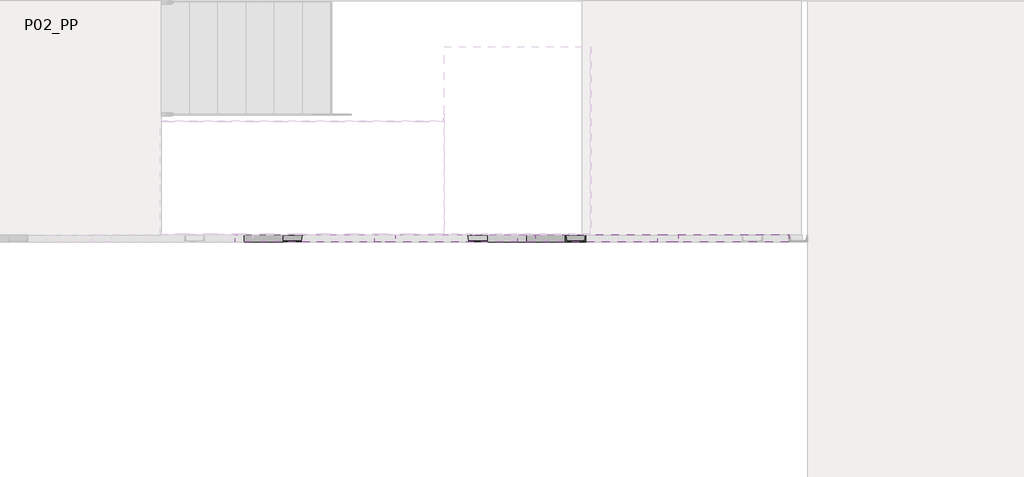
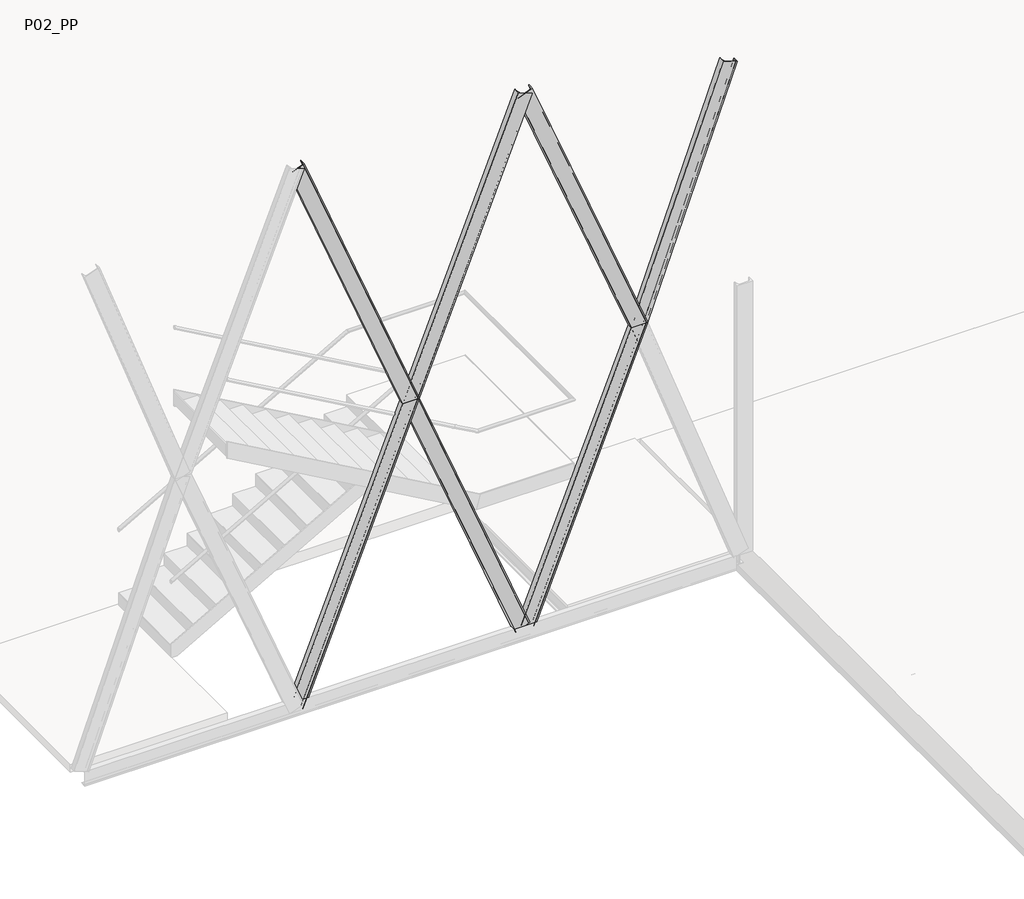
# One storey, part 6 of 7: 7 beams.
"""IFC4 building model written with IfcOpenShell, lengths in millimetres."""

from ifc_helpers import new_model, si_unit, frame, origin, place, context, project, spatial, polyline, circle_curve, ellipse_curve, element, save
from ifc_brep_helpers import plane_surface, cylinder_surface, revolved_surface, advanced_brep

model = new_model("IFC4")

# Units and contexts
model_context = context("Model", 3, world=origin())
ifc_project = project(units=[si_unit("LENGTHUNIT", "METRE", prefix="MILLI")], contexts=[model_context])

# Site, building, storey
site = spatial("IfcSite", under=ifc_project)
building = spatial("IfcBuilding", under=site)
storey = spatial("IfcBuildingStorey", under=building, Name="P02_PP", Elevation=14910.0)

# Beams
placement = place(None, origin())
element("IfcBeam", 1, ObjectType="M_MC Shapes : UPN200x75", at=placement, inside=storey, context=model_context, shape_type="AdvancedBrep", body=[
    advanced_brep(
    [(-19.1744741, 10979.6239684, 22272.8267723), (166.5208641, 10979.6239626, 22347.1049075), (166.5208665, 11054.6239626, 22347.1049075), (165.6159032, 11054.6239626, 22346.7429222), (161.9983204, 11051.32334, 22345.2958892), (152.6287116, 10990.7752085, 22341.5480464), (145.393546, 10984.1739632, 22338.6539803), (1.9528443, 10984.1739677, 22281.2776996), (-5.2823209, 10990.7752134, 22278.3836335), (-14.6519259, 11051.3233455, 22274.6357907), (-18.2695085, 11054.6239683, 22273.1887576), (-19.1744717, 11054.6239684, 22272.8267723), (1681.3628177, 10979.6239153, 18560.0000202), (1465.9562254, 10979.6239221, 18560.0000202), (1681.36282, 11054.6239153, 18560.0000202), (1680.3130626, 11054.6239154, 18560.0000202), (1676.1166666, 11051.3232928, 18560.0000202), (1665.2479207, 10990.7751613, 18560.0000202), (1656.8551287, 10984.1739161, 18560.0000202), (1490.4639147, 10984.1739213, 18560.0000202), (1482.0711231, 10990.775167, 18560.0000202), (1471.2023809, 11051.3232992, 18560.0000202), (1467.0059851, 11054.623922, 18560.0000202), (1465.9562277, 11054.6239221, 18560.0000202)],
    [
        (0, 1),
        (1, 2),
        (2, 3),
        (3, 4, circle_curve(frame((165.6159031, 11050.6739626, 22346.7429222), z_axis=(-0.37139067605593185, 1.1576568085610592e-08, 0.9284766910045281), x_axis=(3.117086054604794e-08, 0.9999999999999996, 0.0)), 3.95)),
        (4, 5),
        (5, 6, circle_curve(frame((145.3935463, 10992.0739632, 22338.6539803), z_axis=(0.37139067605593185, -1.1576568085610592e-08, -0.9284766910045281), x_axis=(3.117086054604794e-08, 0.9999999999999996, 0.0)), 7.9)),
        (6, 7),
        (7, 8, circle_curve(frame((1.9528445, 10992.0739677, 22281.2776996), z_axis=(0.37139067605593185, -1.1576568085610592e-08, -0.9284766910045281), x_axis=(3.117086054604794e-08, 0.9999999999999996, 0.0)), 7.9)),
        (8, 9),
        (9, 10, circle_curve(frame((-18.2695086, 11050.6739683, 22273.1887576), z_axis=(-0.37139067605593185, 1.1576568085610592e-08, 0.9284766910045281), x_axis=(3.117086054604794e-08, 0.9999999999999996, 0.0)), 3.95)),
        (10, 11),
        (11, 0),
        (12, 1),
        (0, 13),
        (13, 12),
        (14, 2),
        (12, 14),
        (15, 3),
        (14, 15),
        (16, 4),
        (15, 16, ellipse_curve(frame((1680.3130625, 11050.6739154, 18560.0000202), z_axis=(1.6592393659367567e-10, -3.915547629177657e-10, 1.0), x_axis=(0.9999999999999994, -3.2149750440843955e-08, -1.6592391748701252e-10)), 4.2542802, 3.95)),
        (16, 17),
        (17, 5),
        (18, 6),
        (17, 18, ellipse_curve(frame((1656.8551289, 10992.0739161, 18560.0000202), z_axis=(-1.6592393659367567e-10, 3.915547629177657e-10, -1.0), x_axis=(-0.9999999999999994, 3.2149750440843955e-08, 1.6592391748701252e-10)), 8.5085604, 7.9)),
        (19, 7),
        (18, 19),
        (20, 8),
        (19, 20, ellipse_curve(frame((1490.4639149, 10992.0739213, 18560.0000202), z_axis=(-1.6592393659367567e-10, 3.915547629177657e-10, -1.0), x_axis=(-0.9999999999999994, 3.2149750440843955e-08, 1.6592391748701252e-10)), 8.5085604, 7.9)),
        (20, 21),
        (21, 9),
        (22, 10),
        (21, 22, ellipse_curve(frame((1467.005985, 11050.673922, 18560.0000202), z_axis=(1.6592393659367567e-10, -3.915547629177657e-10, 1.0), x_axis=(0.9999999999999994, -3.2149750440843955e-08, -1.6592391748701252e-10)), 4.2542802, 3.95)),
        (23, 11),
        (22, 23),
        (23, 13),
    ],
    [
        plane_surface(frame((73.6731954, 10990.5239655, 22309.9658399), z_axis=(-0.3713906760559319, 1.1576568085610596e-08, 0.928476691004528), x_axis=(-0.9284766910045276, 2.8941417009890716e-08, -0.37139067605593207))),
        plane_surface(frame((1465.9425613, 10979.6239221, 18560.0341803), z_axis=(-3.117086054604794e-08, -0.9999999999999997, 0.0), x_axis=(-0.37139067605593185, 1.1576568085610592e-08, 0.9284766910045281))),
        plane_surface(frame((1651.6378995, 10979.6239163, 18634.3123155), z_axis=(0.9284766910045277, -2.8941417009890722e-08, 0.37139067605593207), x_axis=(-0.37139067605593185, 1.1576568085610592e-08, 0.9284766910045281))),
        plane_surface(frame((1651.6379019, 11054.6239163, 18634.3123155), z_axis=(3.117086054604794e-08, 0.9999999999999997, 0.0), x_axis=(-0.37139067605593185, 1.1576568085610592e-08, 0.9284766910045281))),
        cylinder_surface(frame((1650.7329385, 11050.6739163, 18633.9503302), z_axis=(0.37139067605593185, -1.1576568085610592e-08, -0.9284766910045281), x_axis=(3.117086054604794e-08, 0.9999999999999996, 0.0)), 3.95),
        plane_surface(frame((1644.3029353, 11033.1489165, 18631.3783292), z_axis=(-0.9158437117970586, 0.16439933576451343, -0.3663374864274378), x_axis=(-0.37139067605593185, 1.1576568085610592e-08, 0.9284766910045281))),
        revolved_surface(polyline([(145.39354652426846, 10999.97396319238, 22338.65398031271), (1658.0287236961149, 10999.973916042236, 18557.06603386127)]), (1630.5105817, 10992.0739169, 18625.8613883), (-0.37139067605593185, 1.1576568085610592e-08, 0.9284766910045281)),
        plane_surface(frame((1630.5105814, 10984.1739169, 18625.8613883), z_axis=(3.117086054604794e-08, 0.9999999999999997, 0.0), x_axis=(-0.37139067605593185, 1.1576568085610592e-08, 0.9284766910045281))),
        revolved_surface(polyline([(1.9528448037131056, 10999.97396769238, 22281.2776996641), (1491.6375097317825, 10999.973921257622, 18557.066033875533)]), (1487.06988, 10992.0739214, 18568.4851076), (-0.37139067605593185, 1.1576568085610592e-08, 0.9284766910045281)),
        plane_surface(frame((1473.2775289, 11033.1489218, 18562.9681667), z_axis=(0.9158437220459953, 0.16439927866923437, 0.3663374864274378), x_axis=(-0.37139067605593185, 1.1576568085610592e-08, 0.9284766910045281))),
        cylinder_surface(frame((1466.8475268, 11050.673922, 18560.3961656), z_axis=(0.37139067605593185, -1.1576568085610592e-08, -0.9284766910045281), x_axis=(3.117086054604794e-08, 0.9999999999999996, 0.0)), 3.95),
        plane_surface(frame((1466.8475269, 11054.623922, 18560.3961656), z_axis=(3.117086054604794e-08, 0.9999999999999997, 0.0), x_axis=(-0.37139067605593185, 1.1576568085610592e-08, 0.9284766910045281))),
        plane_surface(frame((1465.9425637, 11054.6239221, 18560.0341803), z_axis=(-0.9284766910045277, 2.8941417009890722e-08, -0.37139067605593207), x_axis=(-0.37139067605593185, 1.1576568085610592e-08, 0.9284766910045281))),
        plane_surface(frame((1465.9562257, 10990.5239221, 18560.0000202), z_axis=(-1.6592393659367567e-10, 3.915547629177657e-10, -1.0), x_axis=(1.0, 0.0, -1.6592393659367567e-10))),
    ],
    [
        (0, [[1, 2, 3, 4, 5, 6, 7, 8, 9, 10, 11, 12]]),
        (1, [[13, -1, 14, 15]]),
        (2, [[16, -2, -13, 17]]),
        (3, [[18, -3, -16, 19]]),
        (4, [[20, -4, -18, 21]]),
        (5, [[22, 23, -5, -20]]),
        (6, [[24, -6, -23, 25]]),
        (7, [[26, -7, -24, 27]]),
        (8, [[28, -8, -26, 29]]),
        (9, [[30, 31, -9, -28]]),
        (10, [[32, -10, -31, 33]]),
        (11, [[34, -11, -32, 35]]),
        (12, [[-14, -12, -34, 36]]),
        (13, [[-36, -35, -33, -30, -29, -27, -25, -22, -21, -19, -17, -15]]),
    ],
),
])
element("IfcBeam", 2, ObjectType="M_MC Shapes : UPN200x75", at=placement, inside=storey, context=model_context, shape_type="AdvancedBrep", body=[
    advanced_brep(
    [(3166.4934732, 10979.6239702, 22272.8267746), (3166.4934709, 11054.6239702, 22272.8267746), (3165.5885076, 11054.6239702, 22273.1887599), (3161.970925, 11051.3233473, 22274.635793), (3152.60132, 10990.7752152, 22278.3836358), (3145.3661549, 10984.1739695, 22281.2777019), (3001.9254532, 10984.1739651, 22338.6539827), (2994.6902876, 10990.7752103, 22341.5480488), (2985.3206788, 11051.3233418, 22345.2958916), (2981.703096, 11054.6239644, 22346.7429247), (2980.7981328, 11054.6239644, 22347.10491), (2980.7981351, 10979.6239644, 22347.10491), (1465.9561795, 10979.6239172, 18560.0000261), (1681.3627718, 10979.6239239, 18560.0000261), (1465.9561772, 11054.6239172, 18560.0000261), (1467.0059346, 11054.6239172, 18560.0000261), (1471.2023306, 11051.3232946, 18560.0000261), (1482.0710765, 10990.7751632, 18560.0000261), (1490.4638685, 10984.173918, 18560.0000261), (1656.8550825, 10984.1739231, 18560.0000261), (1665.2478741, 10990.7751689, 18560.0000261), (1676.1166162, 11051.323301, 18560.0000261), (1680.3130121, 11054.6239239, 18560.0000261), (1681.3627695, 11054.6239239, 18560.0000261)],
    [
        (0, 1),
        (1, 2),
        (2, 3, circle_curve(frame((3165.5885077, 11050.6739702, 22273.1887599), z_axis=(0.3713906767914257, 1.1573272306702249e-08, 0.9284766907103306), x_axis=(-3.116199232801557e-08, 0.9999999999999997, 0.0)), 3.95)),
        (3, 4),
        (4, 5, circle_curve(frame((3145.3661546, 10992.0739695, 22281.2777019), z_axis=(-0.3713906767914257, -1.1573272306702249e-08, -0.9284766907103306), x_axis=(-3.116199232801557e-08, 0.9999999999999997, 0.0)), 7.9)),
        (5, 6),
        (6, 7, circle_curve(frame((3001.9254529, 10992.0739651, 22338.6539827), z_axis=(-0.3713906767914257, -1.1573272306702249e-08, -0.9284766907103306), x_axis=(-3.116199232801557e-08, 0.9999999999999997, 0.0)), 7.9)),
        (7, 8),
        (8, 9, circle_curve(frame((2981.7030962, 11050.6739644, 22346.7429247), z_axis=(0.3713906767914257, 1.1573272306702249e-08, 0.9284766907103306), x_axis=(-3.116199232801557e-08, 0.9999999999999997, 0.0)), 3.95)),
        (9, 10),
        (10, 11),
        (11, 0),
        (12, 13),
        (13, 0),
        (11, 12),
        (14, 12),
        (10, 14),
        (15, 14),
        (9, 15),
        (16, 15, ellipse_curve(frame((1467.0059347, 11050.6739172, 18560.0000261), z_axis=(2.569041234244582e-10, 0.0, 1.0), x_axis=(-0.9999999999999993, -3.1161989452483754e-08, 2.569041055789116e-10)), 4.2542802, 3.95)),
        (8, 16),
        (7, 17),
        (17, 16),
        (18, 17, ellipse_curve(frame((1490.4638683, 10992.073918, 18560.0000261), z_axis=(-2.569041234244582e-10, 0.0, -1.0), x_axis=(0.9999999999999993, 3.1161989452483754e-08, -2.569041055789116e-10)), 8.5085604, 7.9)),
        (6, 18),
        (19, 18),
        (5, 19),
        (20, 19, ellipse_curve(frame((1656.8550823, 10992.0739231, 18560.0000261), z_axis=(-2.569041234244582e-10, 0.0, -1.0), x_axis=(0.9999999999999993, 3.1161989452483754e-08, -2.569041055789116e-10)), 8.5085604, 7.9)),
        (4, 20),
        (3, 21),
        (21, 20),
        (22, 21, ellipse_curve(frame((1680.3130122, 11050.6739239, 18560.0000261), z_axis=(2.569041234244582e-10, 0.0, 1.0), x_axis=(-0.9999999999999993, -3.1161989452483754e-08, 2.569041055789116e-10)), 4.2542802, 3.95)),
        (2, 22),
        (23, 22),
        (1, 23),
        (13, 23),
    ],
    [
        plane_surface(frame((3073.6458038, 10990.5239673, 22309.9658423), z_axis=(0.37139067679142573, 1.157327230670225e-08, 0.9284766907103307), x_axis=(0.9284766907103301, 2.893318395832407e-08, -0.37139067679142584))),
        plane_surface(frame((1681.3764349, 10979.6239239, 18560.0341838), z_axis=(3.116199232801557e-08, -0.9999999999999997, 0.0), x_axis=(0.3713906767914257, 1.1573272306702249e-08, 0.9284766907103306))),
        plane_surface(frame((1495.6810967, 10979.6239181, 18634.3123191), z_axis=(-0.9284766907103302, -2.8933183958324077e-08, 0.3713906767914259), x_axis=(0.3713906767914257, 1.1573272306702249e-08, 0.9284766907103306))),
        plane_surface(frame((1495.6810944, 11054.6239181, 18634.3123191), z_axis=(-3.116199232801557e-08, 0.9999999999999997, 0.0), x_axis=(0.3713906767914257, 1.1573272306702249e-08, 0.9284766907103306))),
        cylinder_surface(frame((1496.5860578, 11050.6739181, 18633.9503338), z_axis=(-0.3713906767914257, -1.1573272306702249e-08, -0.9284766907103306), x_axis=(-3.116199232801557e-08, 0.9999999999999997, 0.0)), 3.95),
        plane_surface(frame((1503.0160609, 11033.1489183, 18631.3783328), z_axis=(0.9158437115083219, 0.16439933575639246, -0.3663374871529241), x_axis=(0.3713906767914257, 1.1573272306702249e-08, 0.9284766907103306))),
        revolved_surface(polyline([(3001.9254527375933, 10999.973965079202, 22338.65398268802), (1489.2902735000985, 10999.97391794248, 18557.066039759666)]), (1516.8084146, 10992.0739188, 18625.8613918), (0.3713906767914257, 1.1573272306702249e-08, 0.9284766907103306)),
        plane_surface(frame((1516.8084148, 10984.1739188, 18625.8613918), z_axis=(-3.116199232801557e-08, 0.9999999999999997, 0.0), x_axis=(0.3713906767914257, 1.1573272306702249e-08, 0.9284766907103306))),
        revolved_surface(polyline([(3145.366154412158, 10999.9739694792, 22281.27770192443), (1655.6814875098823, 10999.973923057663, 18557.06603975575)]), (1660.2491163, 10992.0739232, 18568.4851111), (0.3713906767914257, 1.1573272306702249e-08, 0.9284766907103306)),
        plane_surface(frame((1674.0414674, 11033.1489237, 18562.9681701), z_axis=(-0.9158437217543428, 0.1643992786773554, 0.36633748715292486), x_axis=(0.3713906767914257, 1.1573272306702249e-08, 0.9284766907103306))),
        cylinder_surface(frame((1680.4714694, 11050.6739239, 18560.3961691), z_axis=(-0.3713906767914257, -1.1573272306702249e-08, -0.9284766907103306), x_axis=(-3.116199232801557e-08, 0.9999999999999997, 0.0)), 3.95),
        plane_surface(frame((1680.4714693, 11054.6239239, 18560.3961691), z_axis=(-3.116199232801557e-08, 0.9999999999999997, 0.0), x_axis=(0.3713906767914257, 1.1573272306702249e-08, 0.9284766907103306))),
        plane_surface(frame((1681.3764325, 11054.6239239, 18560.0341838), z_axis=(0.9284766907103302, 2.8933183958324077e-08, -0.3713906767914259), x_axis=(0.3713906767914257, 1.1573272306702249e-08, 0.9284766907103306))),
        plane_surface(frame((1681.3627715, 10990.5239239, 18560.0000261), z_axis=(-2.569041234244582e-10, 0.0, -1.0), x_axis=(1.0, 0.0, -2.569041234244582e-10))),
    ],
    [
        (0, [[1, 2, 3, 4, 5, 6, 7, 8, 9, 10, 11, 12]]),
        (1, [[13, 14, -12, 15]]),
        (2, [[16, -15, -11, 17]]),
        (3, [[18, -17, -10, 19]]),
        (4, [[20, -19, -9, 21]]),
        (5, [[-21, -8, 22, 23]]),
        (6, [[24, -22, -7, 25]]),
        (7, [[26, -25, -6, 27]]),
        (8, [[28, -27, -5, 29]]),
        (9, [[-29, -4, 30, 31]]),
        (10, [[32, -30, -3, 33]]),
        (11, [[34, -33, -2, 35]]),
        (12, [[36, -35, -1, -14]]),
        (13, [[-13, -16, -18, -20, -23, -24, -26, -28, -31, -32, -34, -36]]),
    ],
),
])
element("IfcBeam", 3, ObjectType="M_MC Shapes : UPN200x75", at=placement, inside=storey, context=model_context, shape_type="AdvancedBrep", body=[
    advanced_brep(
    [(2980.8255261, 10979.6239688, 22272.8267726), (3166.5208643, 10979.623963, 22347.1049079), (3166.5208666, 11054.623963, 22347.1049079), (3165.6159033, 11054.623963, 22346.7429226), (3161.9983205, 11051.3233404, 22345.2958895), (3152.6287117, 10990.7752089, 22341.5480467), (3145.3935462, 10984.1739636, 22338.6539806), (3001.9528445, 10984.1739681, 22281.2776999), (2994.7176793, 10990.7752138, 22278.3836338), (2985.3480743, 11051.3233459, 22274.635791), (2981.7304917, 11054.6239687, 22273.1887579), (2980.8255284, 11054.6239688, 22272.8267726), (4681.3628189, 10979.6239158, 18560.0000213), (4465.9562266, 10979.6239225, 18560.0000213), (4681.3628212, 11054.6239158, 18560.0000213), (4680.3130638, 11054.6239158, 18560.0000213), (4676.1166678, 11051.3232932, 18560.0000213), (4665.2479219, 10990.7751617, 18560.0000213), (4656.8551299, 10984.1739165, 18560.0000213), (4490.4639159, 10984.1739217, 18560.0000213), (4482.0711243, 10990.7751675, 18560.0000213), (4471.2023821, 11051.3232996, 18560.0000213), (4467.0059863, 11054.6239225, 18560.0000213), (4465.9562289, 11054.6239225, 18560.0000213)],
    [
        (0, 1),
        (1, 2),
        (2, 3),
        (3, 4, circle_curve(frame((3165.6159032, 11050.673963, 22346.7429226), z_axis=(-0.37139067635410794, 1.1573273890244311e-08, 0.9284766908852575), x_axis=(3.1161990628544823e-08, 0.9999999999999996, 0.0)), 3.95)),
        (4, 5),
        (5, 6, circle_curve(frame((3145.3935464, 10992.0739636, 22338.6539806), z_axis=(0.37139067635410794, -1.1573273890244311e-08, -0.9284766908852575), x_axis=(3.1161990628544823e-08, 0.9999999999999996, 0.0)), 7.9)),
        (6, 7),
        (7, 8, circle_curve(frame((3001.9528447, 10992.0739681, 22281.2776999), z_axis=(0.37139067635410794, -1.1573273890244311e-08, -0.9284766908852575), x_axis=(3.1161990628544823e-08, 0.9999999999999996, 0.0)), 7.9)),
        (8, 9),
        (9, 10, circle_curve(frame((2981.7304916, 11050.6739687, 22273.1887579), z_axis=(-0.37139067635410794, 1.1573273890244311e-08, 0.9284766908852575), x_axis=(3.1161990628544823e-08, 0.9999999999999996, 0.0)), 3.95)),
        (10, 11),
        (11, 0),
        (12, 1),
        (0, 13),
        (13, 12),
        (14, 2),
        (12, 14),
        (15, 3),
        (14, 15),
        (16, 4),
        (15, 16, ellipse_curve(frame((4680.3130637, 11050.6739158, 18560.0000213), z_axis=(1.712828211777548e-10, 0.0, 1.0), x_axis=(0.9999999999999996, -3.1161993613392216e-08, -1.7128295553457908e-10)), 4.2542802, 3.95)),
        (16, 17),
        (17, 5),
        (18, 6),
        (17, 18, ellipse_curve(frame((4656.8551301, 10992.0739165, 18560.0000213), z_axis=(-1.712828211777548e-10, 0.0, -1.0), x_axis=(-0.9999999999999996, 3.1161993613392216e-08, 1.7128295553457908e-10)), 8.5085604, 7.9)),
        (19, 7),
        (18, 19),
        (20, 8),
        (19, 20, ellipse_curve(frame((4490.4639161, 10992.0739217, 18560.0000213), z_axis=(-1.712828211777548e-10, 0.0, -1.0), x_axis=(-0.9999999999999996, 3.1161993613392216e-08, 1.7128295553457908e-10)), 8.5085604, 7.9)),
        (20, 21),
        (21, 9),
        (22, 10),
        (21, 22, ellipse_curve(frame((4467.0059862, 11050.6739225, 18560.0000213), z_axis=(1.712828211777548e-10, 0.0, 1.0), x_axis=(0.9999999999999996, -3.1161993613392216e-08, -1.7128295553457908e-10)), 4.2542802, 3.95)),
        (23, 11),
        (22, 23),
        (23, 13),
    ],
    [
        plane_surface(frame((3073.6731955, 10990.5239659, 22309.9658402), z_axis=(-0.371390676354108, 1.1573273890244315e-08, 0.9284766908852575), x_axis=(-0.9284766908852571, 2.8933181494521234e-08, -0.37139067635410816))),
        plane_surface(frame((4465.9425627, 10979.6239225, 18560.0341811), z_axis=(-3.116199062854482e-08, -0.9999999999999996, 0.0), x_axis=(-0.37139067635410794, 1.1573273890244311e-08, 0.9284766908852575))),
        plane_surface(frame((4651.6379009, 10979.6239167, 18634.3123164), z_axis=(0.9284766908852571, -2.8933181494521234e-08, 0.3713906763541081), x_axis=(-0.37139067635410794, 1.1573273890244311e-08, 0.9284766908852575))),
        plane_surface(frame((4651.6379032, 11054.6239167, 18634.3123164), z_axis=(3.116199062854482e-08, 0.9999999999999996, 0.0), x_axis=(-0.37139067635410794, 1.1573273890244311e-08, 0.9284766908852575))),
        cylinder_surface(frame((4650.7329398, 11050.6739167, 18633.9503311), z_axis=(0.37139067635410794, -1.1573273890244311e-08, -0.9284766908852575), x_axis=(3.1161990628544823e-08, 0.9999999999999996, 0.0)), 3.95),
        plane_surface(frame((4644.3029367, 11033.1489169, 18631.37833), z_axis=(-0.9158437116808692, 0.16439933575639, -0.36633748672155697), x_axis=(-0.37139067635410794, 1.1573273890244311e-08, 0.9284766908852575))),
        revolved_surface(polyline([(3145.393546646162, 10999.973963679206, 22338.653980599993), (4658.028724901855, 10999.973916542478, 18557.06603496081)]), (4630.510583, 10992.0739174, 18625.8613891), (-0.37139067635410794, 1.1573273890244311e-08, 0.9284766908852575)),
        plane_surface(frame((4630.5105828, 10984.1739174, 18625.8613891), z_axis=(3.116199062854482e-08, 0.9999999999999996, 0.0), x_axis=(-0.37139067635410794, 1.1573273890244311e-08, 0.9284766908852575))),
        revolved_surface(polyline([(3001.9528449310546, 10999.973968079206, 22281.27769993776), (4491.637510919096, 10999.973921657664, 18557.06603496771)]), (4487.0698813, 10992.0739218, 18568.4851084), (-0.37139067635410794, 1.1573273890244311e-08, 0.9284766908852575)),
        plane_surface(frame((4473.2775302, 11033.1489223, 18562.9681674), z_axis=(0.9158437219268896, 0.16439927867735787, 0.36633748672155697), x_axis=(-0.37139067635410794, 1.1573273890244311e-08, 0.9284766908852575))),
        cylinder_surface(frame((4466.8475282, 11050.6739225, 18560.3961664), z_axis=(0.37139067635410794, -1.1573273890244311e-08, -0.9284766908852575), x_axis=(3.1161990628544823e-08, 0.9999999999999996, 0.0)), 3.95),
        plane_surface(frame((4466.8475283, 11054.6239225, 18560.3961664), z_axis=(3.116199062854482e-08, 0.9999999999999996, 0.0), x_axis=(-0.37139067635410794, 1.1573273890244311e-08, 0.9284766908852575))),
        plane_surface(frame((4465.942565, 11054.6239225, 18560.0341811), z_axis=(-0.9284766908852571, 2.8933181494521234e-08, -0.3713906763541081), x_axis=(-0.37139067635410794, 1.1573273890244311e-08, 0.9284766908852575))),
        plane_surface(frame((4465.9562269, 10990.5239225, 18560.0000213), z_axis=(-1.712828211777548e-10, 0.0, -1.0), x_axis=(1.0, 0.0, -1.712828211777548e-10))),
    ],
    [
        (0, [[1, 2, 3, 4, 5, 6, 7, 8, 9, 10, 11, 12]]),
        (1, [[13, -1, 14, 15]]),
        (2, [[16, -2, -13, 17]]),
        (3, [[18, -3, -16, 19]]),
        (4, [[20, -4, -18, 21]]),
        (5, [[22, 23, -5, -20]]),
        (6, [[24, -6, -23, 25]]),
        (7, [[26, -7, -24, 27]]),
        (8, [[28, -8, -26, 29]]),
        (9, [[30, 31, -9, -28]]),
        (10, [[32, -10, -31, 33]]),
        (11, [[34, -11, -32, 35]]),
        (12, [[-14, -12, -34, 36]]),
        (13, [[-36, -35, -33, -30, -29, -27, -25, -22, -21, -19, -17, -15]]),
    ],
),
])
element("IfcBeam", 4, ObjectType="M_MC Shapes : UPN200x75", at=placement, inside=storey, context=model_context, shape_type="AdvancedBrep", body=[
    advanced_brep(
    [(5858.8064068, 10979.6239637, 21774.4635559), (5858.8064042, 11054.6239637, 21774.4635559), (5857.8913047, 11054.6239637, 21774.7990924), (5854.2332025, 11051.3233408, 21776.1403965), (5844.7586512, 10990.7752087, 21779.6143995), (5837.4424468, 10984.173963, 21782.2970078), (5692.3951033, 10984.173958, 21835.4810338), (5685.0788985, 10990.7752033, 21838.1636421), (5675.604343, 11051.3233347, 21841.637645), (5671.9462406, 11054.6239573, 21842.9789492), (5671.031141, 11054.6239573, 21843.3144857), (5671.0311436, 10979.6239573, 21843.3144857), (4467.1491742, 10979.6239161, 18560.0000238), (4680.1697783, 10979.6239234, 18560.0000238), (4467.1491717, 11054.6239161, 18560.0000238), (4468.1873012, 11054.6239161, 18560.0000238), (4472.3372152, 11051.3232935, 18560.0000238), (4483.0855717, 10990.7751621, 18560.0000238), (4491.3853996, 10984.1739169, 18560.0000238), (4655.9335527, 10984.1739225, 18560.0000238), (4664.2333801, 10990.7751683, 18560.0000238), (4674.9817325, 11051.3233004, 18560.0000238), (4679.1316462, 11054.6239233, 18560.0000238), (4680.1697758, 11054.6239234, 18560.0000238)],
    [
        (0, 1),
        (1, 2),
        (2, 3, circle_curve(frame((5857.8913048, 11050.6739637, 21774.7990924), z_axis=(0.3442546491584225, 1.1791241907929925e-08, 0.9388763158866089), x_axis=(-3.425151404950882e-08, 0.9999999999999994, 0.0)), 3.95)),
        (3, 4),
        (4, 5, circle_curve(frame((5837.4424466, 10992.073963, 21782.2970078), z_axis=(-0.3442546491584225, -1.1791241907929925e-08, -0.9388763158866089), x_axis=(-3.425151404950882e-08, 0.9999999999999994, 0.0)), 7.9)),
        (5, 6),
        (6, 7, circle_curve(frame((5692.395103, 10992.073958, 21835.4810338), z_axis=(-0.3442546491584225, -1.1791241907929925e-08, -0.9388763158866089), x_axis=(-3.425151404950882e-08, 0.9999999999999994, 0.0)), 7.9)),
        (7, 8),
        (8, 9, circle_curve(frame((5671.9462407, 11050.6739573, 21842.9789492), z_axis=(0.3442546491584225, 1.1791241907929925e-08, 0.9388763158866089), x_axis=(-3.425151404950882e-08, 0.9999999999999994, 0.0)), 3.95)),
        (9, 10),
        (10, 11),
        (11, 0),
        (12, 13),
        (13, 0),
        (11, 12),
        (14, 12),
        (10, 14),
        (15, 14),
        (9, 15),
        (16, 15, ellipse_curve(frame((4468.1873014, 11050.6739161, 18560.0000238), z_axis=(7.478685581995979e-11, 0.0, 1.0), x_axis=(-0.9999999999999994, -3.425151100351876e-08, 7.478690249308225e-11)), 4.2071569, 3.95)),
        (8, 16),
        (7, 17),
        (17, 16),
        (18, 17, ellipse_curve(frame((4491.3853993, 10992.0739169, 18560.0000238), z_axis=(-7.478685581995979e-11, 0.0, -1.0), x_axis=(0.9999999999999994, 3.425151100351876e-08, -7.478690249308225e-11)), 8.4143139, 7.9)),
        (6, 18),
        (19, 18),
        (5, 19),
        (20, 19, ellipse_curve(frame((4655.9335524, 10992.0739225, 18560.0000238), z_axis=(-7.478685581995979e-11, 0.0, -1.0), x_axis=(0.9999999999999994, 3.425151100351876e-08, -7.478690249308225e-11)), 8.4143139, 7.9)),
        (4, 20),
        (3, 21),
        (21, 20),
        (22, 21, ellipse_curve(frame((4679.1316463, 11050.6739233, 18560.0000238), z_axis=(7.478685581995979e-11, 0.0, 1.0), x_axis=(-0.9999999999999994, -3.425151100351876e-08, 7.478690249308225e-11)), 4.2071569, 3.95)),
        (2, 22),
        (23, 22),
        (1, 23),
        (13, 23),
    ],
    [
        plane_surface(frame((5764.9187748, 10990.5239605, 21808.8890208), z_axis=(0.3442546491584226, 1.1791241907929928e-08, 0.9388763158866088), x_axis=(0.9388763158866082, 3.2157935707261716e-08, -0.34425464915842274))),
        plane_surface(frame((4680.1817645, 10979.6239234, 18560.0327132), z_axis=(3.4251514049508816e-08, -0.9999999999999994, 0.0), x_axis=(0.3442546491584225, 1.1791241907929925e-08, 0.9388763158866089))),
        plane_surface(frame((4492.4065013, 10979.6239169, 18628.883643), z_axis=(-0.9388763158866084, -3.215793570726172e-08, 0.34425464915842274), x_axis=(0.3442546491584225, 1.1791241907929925e-08, 0.9388763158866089))),
        plane_surface(frame((4492.4064987, 11054.6239169, 18628.883643), z_axis=(-3.4251514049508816e-08, 0.9999999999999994, 0.0), x_axis=(0.3442546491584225, 1.1791241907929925e-08, 0.9388763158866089))),
        cylinder_surface(frame((4493.3215984, 11050.673917, 18628.5481065), z_axis=(-0.3442546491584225, -1.1791241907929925e-08, -0.9388763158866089), x_axis=(-3.425151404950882e-08, 0.9999999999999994, 0.0)), 3.95),
        plane_surface(frame((4499.8236223, 11033.1489172, 18626.1640313), z_axis=(0.9261018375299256, 0.1643993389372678, -0.33957067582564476), x_axis=(0.3442546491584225, 1.1791241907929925e-08, 0.9388763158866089))),
        revolved_surface(polyline([(5692.395102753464, 10999.973958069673, 21835.481033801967), (4490.388208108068, 10999.973916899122, 18557.28041204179)]), (4513.7704607, 10992.0739177, 18621.0501911), (0.3442546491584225, 1.1791241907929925e-08, 0.9388763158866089)),
        plane_surface(frame((4513.7704609, 10984.1739177, 18621.0501911), z_axis=(-3.4251514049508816e-08, 0.9999999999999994, 0.0), x_axis=(0.3442546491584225, 1.1791241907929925e-08, 0.9388763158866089))),
        revolved_surface(polyline([(5837.442446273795, 10999.973962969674, 21782.297007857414), (4654.936361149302, 10999.973922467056, 18557.280412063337)]), (4658.8178042, 10992.0739226, 18567.8661651), (0.3442546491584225, 1.1791241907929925e-08, 0.9388763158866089)),
        plane_surface(frame((4672.7646397, 11033.1489231, 18562.7523249), z_axis=(-0.9261018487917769, 0.16439927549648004, 0.3395706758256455), x_axis=(0.3442546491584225, 1.1791241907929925e-08, 0.9388763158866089))),
        cylinder_surface(frame((4679.2666625, 11050.6739233, 18560.3682497), z_axis=(-0.3442546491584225, -1.1791241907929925e-08, -0.9388763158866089), x_axis=(-3.425151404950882e-08, 0.9999999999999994, 0.0)), 3.95),
        plane_surface(frame((4679.2666624, 11054.6239233, 18560.3682497), z_axis=(-3.4251514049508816e-08, 0.9999999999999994, 0.0), x_axis=(0.3442546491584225, 1.1791241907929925e-08, 0.9388763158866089))),
        plane_surface(frame((4680.1817619, 11054.6239234, 18560.0327132), z_axis=(0.9388763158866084, 3.215793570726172e-08, -0.34425464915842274), x_axis=(0.3442546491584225, 1.1791241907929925e-08, 0.9388763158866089))),
        plane_surface(frame((4680.169778, 10990.5239234, 18560.0000238), z_axis=(-7.478685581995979e-11, 0.0, -1.0), x_axis=(1.0, 0.0, -7.478685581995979e-11))),
    ],
    [
        (0, [[1, 2, 3, 4, 5, 6, 7, 8, 9, 10, 11, 12]]),
        (1, [[13, 14, -12, 15]]),
        (2, [[16, -15, -11, 17]]),
        (3, [[18, -17, -10, 19]]),
        (4, [[20, -19, -9, 21]]),
        (5, [[-21, -8, 22, 23]]),
        (6, [[24, -22, -7, 25]]),
        (7, [[26, -25, -6, 27]]),
        (8, [[28, -27, -5, 29]]),
        (9, [[-29, -4, 30, 31]]),
        (10, [[32, -30, -3, 33]]),
        (11, [[34, -33, -2, 35]]),
        (12, [[36, -35, -1, -14]]),
        (13, [[-13, -16, -18, -20, -23, -24, -26, -28, -31, -32, -34, -36]]),
    ],
),
])
element("IfcBeam", 5, ObjectType="M_MC Shapes : UPN200x75", at=placement, inside=storey, context=model_context, shape_type="AdvancedBrep", body=[
    advanced_brep(
    [(-19.1744835, 10979.623971, 14847.1732482), (-19.1744811, 11054.623971, 14847.1732482), (-18.2695178, 11054.623971, 14846.8112629), (-14.6519352, 11051.3233481, 14845.3642298), (-5.2823303, 10990.775216, 14841.6163871), (1.9528348, 10984.1739703, 14838.7223209), (145.3935366, 10984.1739656, 14781.3460402), (152.6287021, 10990.7752108, 14778.4519741), (161.9983111, 11051.3233423, 14774.7041313), (165.6158938, 11054.6239649, 14773.2570982), (166.5208571, 11054.6239649, 14772.8951129), (166.5208546, 10979.6239649, 14772.8951129), (1681.3628176, 10979.6239147, 18560.0000202), (1465.9562253, 10979.6239218, 18560.0000202), (1681.3628201, 11054.6239147, 18560.0000202), (1680.3130627, 11054.6239147, 18560.0000202), (1676.1166667, 11051.3232921, 18560.0000202), (1665.2479206, 10990.7751607, 18560.0000202), (1656.8551286, 10984.1739155, 18560.0000202), (1490.4639146, 10984.173921, 18560.0000202), (1482.071123, 10990.7751668, 18560.0000202), (1471.202381, 11051.3232989, 18560.0000202), (1467.0059852, 11054.6239218, 18560.0000202), (1465.9562278, 11054.6239218, 18560.0000202)],
    [
        (0, 1),
        (1, 2),
        (2, 3, circle_curve(frame((-18.2695179, 11050.673971, 14846.8112629), z_axis=(-0.37139067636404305, 1.2303667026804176e-08, -0.9284766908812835), x_axis=(3.3128637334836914e-08, 0.9999999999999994, 0.0)), 3.95)),
        (3, 4),
        (4, 5, circle_curve(frame((1.9528351, 10992.0739703, 14838.7223209), z_axis=(0.37139067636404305, -1.2303667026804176e-08, 0.9284766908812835), x_axis=(3.3128637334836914e-08, 0.9999999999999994, 0.0)), 7.9)),
        (5, 6),
        (6, 7, circle_curve(frame((145.3935368, 10992.0739656, 14781.3460402), z_axis=(0.37139067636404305, -1.2303667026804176e-08, 0.9284766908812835), x_axis=(3.3128637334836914e-08, 0.9999999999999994, 0.0)), 7.9)),
        (7, 8),
        (8, 9, circle_curve(frame((165.6158937, 11050.6739649, 14773.2570982), z_axis=(-0.37139067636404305, 1.2303667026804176e-08, -0.9284766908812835), x_axis=(3.3128637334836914e-08, 0.9999999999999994, 0.0)), 3.95)),
        (9, 10),
        (10, 11),
        (11, 0),
        (12, 13),
        (13, 0),
        (11, 12),
        (14, 12),
        (10, 14),
        (15, 14),
        (9, 15),
        (16, 15, ellipse_curve(frame((1680.3130625, 11050.6739147, 18560.0000202), z_axis=(-1.6592393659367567e-10, 3.915547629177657e-10, -1.0), x_axis=(0.9999999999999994, -3.2149750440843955e-08, -1.6592391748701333e-10)), 4.2542802, 3.95)),
        (8, 16),
        (7, 17),
        (17, 16),
        (18, 17, ellipse_curve(frame((1656.8551288, 10992.0739155, 18560.0000202), z_axis=(1.6592393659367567e-10, -3.915547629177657e-10, 1.0), x_axis=(-0.9999999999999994, 3.2149750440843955e-08, 1.6592391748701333e-10)), 8.5085604, 7.9)),
        (6, 18),
        (19, 18),
        (5, 19),
        (20, 19, ellipse_curve(frame((1490.4639149, 10992.073921, 18560.0000202), z_axis=(1.6592393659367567e-10, -3.915547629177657e-10, 1.0), x_axis=(-0.9999999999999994, 3.2149750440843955e-08, 1.6592391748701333e-10)), 8.5085604, 7.9)),
        (4, 20),
        (3, 21),
        (21, 20),
        (22, 21, ellipse_curve(frame((1467.0059851, 11050.6739218, 18560.0000202), z_axis=(-1.6592393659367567e-10, 3.915547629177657e-10, -1.0), x_axis=(0.9999999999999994, -3.2149750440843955e-08, -1.6592391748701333e-10)), 4.2542802, 3.95)),
        (2, 22),
        (23, 22),
        (1, 23),
        (13, 23),
    ],
    [
        plane_surface(frame((73.6731859, 10990.5239679, 14810.0341806), z_axis=(-0.371390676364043, 1.2303667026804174e-08, -0.9284766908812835), x_axis=(-0.928476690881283, 3.0759167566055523e-08, 0.3713906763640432))),
        plane_surface(frame((1465.9425531, 10979.6239218, 18559.9658397), z_axis=(-3.3128637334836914e-08, -0.9999999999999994, 0.0), x_axis=(-0.37139067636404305, 1.2303667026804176e-08, -0.9284766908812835))),
        plane_surface(frame((1651.6378913, 10979.6239157, 18485.6877044), z_axis=(0.9284766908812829, -3.0759167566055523e-08, -0.3713906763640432), x_axis=(-0.37139067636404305, 1.2303667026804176e-08, -0.9284766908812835))),
        plane_surface(frame((1651.6378938, 11054.6239157, 18485.6877044), z_axis=(3.3128637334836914e-08, 0.9999999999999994, 0.0), x_axis=(-0.37139067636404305, 1.2303667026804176e-08, -0.9284766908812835))),
        cylinder_surface(frame((1650.7329304, 11050.6739157, 18486.0496897), z_axis=(0.37139067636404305, -1.2303667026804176e-08, 0.9284766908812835), x_axis=(3.3128637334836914e-08, 0.9999999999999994, 0.0)), 3.95),
        plane_surface(frame((1644.3029272, 11033.1489159, 18488.6216908), z_axis=(-0.9158437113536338, 0.16439933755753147, 0.3663374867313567), x_axis=(-0.37139067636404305, 1.2303667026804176e-08, -0.9284766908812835))),
        revolved_surface(polyline([(145.39353710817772, 10999.973965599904, 14781.346040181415), (1658.0287236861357, 10999.973915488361, 18562.934006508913)]), (1630.5105735, 10992.0739164, 18494.1386317), (-0.37139067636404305, 1.2303667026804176e-08, -0.9284766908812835)),
        plane_surface(frame((1630.5105732, 10984.1739164, 18494.1386317), z_axis=(3.3128637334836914e-08, 0.9999999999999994, 0.0), x_axis=(-0.37139067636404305, 1.2303667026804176e-08, -0.9284766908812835))),
        revolved_surface(polyline([(1.9528354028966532, 10999.973970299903, 14838.722320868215), (1491.6375097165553, 10999.97392094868, 18562.934006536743)]), (1487.0698718, 10992.0739211, 18551.5149124), (-0.37139067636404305, 1.2303667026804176e-08, -0.9284766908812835)),
        plane_surface(frame((1473.2775207, 11033.1489216, 18557.0318534), z_axis=(0.9158437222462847, 0.16439927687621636, -0.3663374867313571), x_axis=(-0.37139067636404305, 1.2303667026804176e-08, -0.9284766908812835))),
        cylinder_surface(frame((1466.8475187, 11050.6739218, 18559.6038544), z_axis=(0.37139067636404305, -1.2303667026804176e-08, 0.9284766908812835), x_axis=(3.3128637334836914e-08, 0.9999999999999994, 0.0)), 3.95),
        plane_surface(frame((1466.8475189, 11054.6239218, 18559.6038544), z_axis=(3.3128637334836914e-08, 0.9999999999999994, 0.0), x_axis=(-0.37139067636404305, 1.2303667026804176e-08, -0.9284766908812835))),
        plane_surface(frame((1465.9425556, 11054.6239218, 18559.9658397), z_axis=(-0.9284766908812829, 3.0759167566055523e-08, 0.3713906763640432), x_axis=(-0.37139067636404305, 1.2303667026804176e-08, -0.9284766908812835))),
        plane_surface(frame((1681.3628179, 10990.5239149, 18560.0000202), z_axis=(1.6592393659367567e-10, -3.915547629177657e-10, 1.0), x_axis=(-1.0, 0.0, 1.6592393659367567e-10))),
    ],
    [
        (0, [[1, 2, 3, 4, 5, 6, 7, 8, 9, 10, 11, 12]]),
        (1, [[13, 14, -12, 15]]),
        (2, [[16, -15, -11, 17]]),
        (3, [[18, -17, -10, 19]]),
        (4, [[20, -19, -9, 21]]),
        (5, [[-21, -8, 22, 23]]),
        (6, [[24, -22, -7, 25]]),
        (7, [[26, -25, -6, 27]]),
        (8, [[28, -27, -5, 29]]),
        (9, [[-29, -4, 30, 31]]),
        (10, [[32, -30, -3, 33]]),
        (11, [[34, -33, -2, 35]]),
        (12, [[36, -35, -1, -14]]),
        (13, [[-13, -16, -18, -20, -23, -24, -26, -28, -31, -32, -34, -36]]),
    ],
),
])
element("IfcBeam", 6, ObjectType="M_MC Shapes : UPN200x75", at=placement, inside=storey, context=model_context, shape_type="AdvancedBrep", body=[
    advanced_brep(
    [(3130.419638, 10979.6239691, 14937.35786), (2944.7242999, 10979.6239633, 14863.0797247), (2944.7242975, 11054.6239633, 14863.0797247), (2945.6292608, 11054.6239633, 14863.44171), (2949.2468436, 11051.3233407, 14864.8887431), (2958.6164524, 10990.7752092, 14868.6365859), (2965.851618, 10984.1739639, 14871.530652), (3109.2923197, 10984.1739684, 14928.9069327), (3116.5274848, 10990.7752141, 14931.8009988), (3125.8970899, 11051.3233462, 14935.5488416), (3129.5146724, 11054.623969, 14936.9958747), (3130.4196357, 11054.6239691, 14937.35786), (1465.9561795, 10979.6239172, 18560.0000261), (1681.3627718, 10979.6239239, 18560.0000261), (1465.9561772, 11054.6239172, 18560.0000261), (1467.0059346, 11054.6239172, 18560.0000261), (1471.2023306, 11051.3232946, 18560.0000261), (1482.0710765, 10990.7751632, 18560.0000261), (1490.4638685, 10984.173918, 18560.0000261), (1656.8550825, 10984.1739231, 18560.0000261), (1665.2478741, 10990.7751689, 18560.0000261), (1676.1166162, 11051.323301, 18560.0000261), (1680.3130121, 11054.6239239, 18560.0000261), (1681.3627695, 11054.6239239, 18560.0000261)],
    [
        (0, 1),
        (1, 2),
        (2, 3),
        (3, 4, circle_curve(frame((2945.6292609, 11050.6739633, 14863.44171), z_axis=(0.37139067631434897, 1.1573272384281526e-08, -0.9284766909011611), x_axis=(-3.116198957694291e-08, 0.9999999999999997, 0.0)), 3.95)),
        (4, 5),
        (5, 6, circle_curve(frame((2965.8516177, 10992.0739639, 14871.530652), z_axis=(-0.37139067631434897, -1.1573272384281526e-08, 0.9284766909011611), x_axis=(-3.116198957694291e-08, 0.9999999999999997, 0.0)), 7.9)),
        (6, 7),
        (7, 8, circle_curve(frame((3109.2923194, 10992.0739684, 14928.9069327), z_axis=(-0.37139067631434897, -1.1573272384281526e-08, 0.9284766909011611), x_axis=(-3.116198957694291e-08, 0.9999999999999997, 0.0)), 7.9)),
        (8, 9),
        (9, 10, circle_curve(frame((3129.5146726, 11050.673969, 14936.9958747), z_axis=(0.37139067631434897, 1.1573272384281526e-08, -0.9284766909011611), x_axis=(-3.116198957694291e-08, 0.9999999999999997, 0.0)), 3.95)),
        (10, 11),
        (11, 0),
        (12, 1),
        (0, 13),
        (13, 12),
        (14, 2),
        (12, 14),
        (15, 3),
        (14, 15),
        (16, 4),
        (15, 16, ellipse_curve(frame((1467.0059347, 11050.6739172, 18560.0000261), z_axis=(-2.569041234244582e-10, 0.0, -1.0), x_axis=(-0.9999999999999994, -3.116198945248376e-08, 2.569041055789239e-10)), 4.2542802, 3.95)),
        (16, 17),
        (17, 5),
        (18, 6),
        (17, 18, ellipse_curve(frame((1490.4638683, 10992.073918, 18560.0000261), z_axis=(2.569041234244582e-10, 0.0, 1.0), x_axis=(0.9999999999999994, 3.116198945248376e-08, -2.569041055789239e-10)), 8.5085604, 7.9)),
        (19, 7),
        (18, 19),
        (20, 8),
        (19, 20, ellipse_curve(frame((1656.8550823, 10992.0739231, 18560.0000261), z_axis=(2.569041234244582e-10, 0.0, 1.0), x_axis=(0.9999999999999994, 3.116198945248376e-08, -2.569041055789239e-10)), 8.5085604, 7.9)),
        (20, 21),
        (21, 9),
        (22, 10),
        (21, 22, ellipse_curve(frame((1680.3130122, 11050.6739239, 18560.0000261), z_axis=(-2.569041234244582e-10, 0.0, -1.0), x_axis=(-0.9999999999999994, -3.116198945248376e-08, 2.569041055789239e-10)), 4.2542802, 3.95)),
        (23, 11),
        (22, 23),
        (23, 13),
    ],
    [
        plane_surface(frame((3037.5719686, 10990.5239662, 14900.2187923), z_axis=(0.371390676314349, 1.1573272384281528e-08, -0.9284766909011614), x_axis=(0.9284766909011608, 2.893318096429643e-08, 0.37139067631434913))),
        plane_surface(frame((1681.3646363, 10979.6239239, 18559.9953649), z_axis=(3.116198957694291e-08, -0.9999999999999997, 0.0), x_axis=(0.37139067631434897, 1.1573272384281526e-08, -0.9284766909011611))),
        plane_surface(frame((1495.6692981, 10979.6239181, 18485.7172296), z_axis=(-0.9284766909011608, -2.893318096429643e-08, -0.3713906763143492), x_axis=(0.37139067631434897, 1.1573272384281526e-08, -0.9284766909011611))),
        plane_surface(frame((1495.6692958, 11054.6239181, 18485.7172296), z_axis=(-3.116198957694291e-08, 0.9999999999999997, 0.0), x_axis=(0.37139067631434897, 1.1573272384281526e-08, -0.9284766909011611))),
        cylinder_surface(frame((1496.5742592, 11050.6739181, 18486.0792149), z_axis=(-0.37139067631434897, -1.1573272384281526e-08, 0.9284766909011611), x_axis=(-3.116198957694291e-08, 0.9999999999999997, 0.0)), 3.95),
        plane_surface(frame((1503.0042623, 11033.1489183, 18488.6512159), z_axis=(0.9158437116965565, 0.16439933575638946, 0.36633748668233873), x_axis=(0.37139067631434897, 1.1573272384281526e-08, -0.9284766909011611))),
        revolved_surface(polyline([(2965.851617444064, 10999.973963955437, 14871.530651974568), (1489.2902734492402, 10999.973917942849, 18562.934012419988)]), (1516.7966159, 10992.0739188, 18494.1681569), (0.37139067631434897, 1.1573272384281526e-08, -0.9284766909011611)),
        plane_surface(frame((1516.7966162, 10984.1739188, 18494.1681569), z_axis=(-3.116198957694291e-08, 0.9999999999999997, 0.0), x_axis=(0.37139067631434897, 1.1573272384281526e-08, -0.9284766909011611))),
        revolved_surface(polyline([(3109.292319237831, 10999.973968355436, 14928.906932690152), (1655.6814875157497, 10999.97392305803, 18562.934012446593)]), (1660.2373177, 10992.0739232, 18551.5444376), (0.37139067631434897, 1.1573272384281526e-08, -0.9284766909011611)),
        plane_surface(frame((1674.0296687, 11033.1489237, 18557.0613785), z_axis=(-0.9158437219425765, 0.16439927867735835, -0.3663374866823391), x_axis=(0.37139067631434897, 1.1573272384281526e-08, -0.9284766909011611))),
        cylinder_surface(frame((1680.4596708, 11050.6739239, 18559.6333796), z_axis=(-0.37139067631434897, -1.1573272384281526e-08, 0.9284766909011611), x_axis=(-3.116198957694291e-08, 0.9999999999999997, 0.0)), 3.95),
        plane_surface(frame((1680.4596707, 11054.6239239, 18559.6333796), z_axis=(-3.116198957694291e-08, 0.9999999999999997, 0.0), x_axis=(0.37139067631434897, 1.1573272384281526e-08, -0.9284766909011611))),
        plane_surface(frame((1681.3646339, 11054.6239239, 18559.9953649), z_axis=(0.9284766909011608, 2.893318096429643e-08, 0.3713906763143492), x_axis=(0.37139067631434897, 1.1573272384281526e-08, -0.9284766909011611))),
        plane_surface(frame((1465.9561791, 10990.5239172, 18560.0000261), z_axis=(2.569041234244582e-10, 0.0, 1.0), x_axis=(-1.0, 0.0, 2.569041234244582e-10))),
    ],
    [
        (0, [[1, 2, 3, 4, 5, 6, 7, 8, 9, 10, 11, 12]]),
        (1, [[13, -1, 14, 15]]),
        (2, [[16, -2, -13, 17]]),
        (3, [[18, -3, -16, 19]]),
        (4, [[20, -4, -18, 21]]),
        (5, [[22, 23, -5, -20]]),
        (6, [[24, -6, -23, 25]]),
        (7, [[26, -7, -24, 27]]),
        (8, [[28, -8, -26, 29]]),
        (9, [[30, 31, -9, -28]]),
        (10, [[32, -10, -31, 33]]),
        (11, [[34, -11, -32, 35]]),
        (12, [[-14, -12, -34, 36]]),
        (13, [[-36, -35, -33, -30, -29, -27, -25, -22, -21, -19, -17, -15]]),
    ],
),
])
element("IfcBeam", 7, ObjectType="M_MC Shapes : UPN200x75", at=placement, inside=storey, context=model_context, shape_type="AdvancedBrep", body=[
    advanced_brep(
    [(3017.0359859, 10979.6239676, 14937.6994233), (3017.0359883, 11054.6239676, 14937.6994233), (3017.9409515, 11054.6239676, 14937.337438), (3021.5585341, 11051.3233448, 14935.8904049), (3030.9281391, 10990.7752127, 14932.1425621), (3038.1633043, 10984.173967, 14929.248496), (3181.604006, 10984.1739625, 14871.8722153), (3188.8391716, 10990.7752078, 14868.9781491), (3198.2087804, 11051.3233393, 14865.2303063), (3201.8263631, 11054.6239619, 14863.7832733), (3202.7313264, 11054.6239619, 14863.421288), (3202.7313241, 10979.6239619, 14863.421288), (4681.3628189, 10979.6239158, 18560.0000213), (4465.9562266, 10979.6239225, 18560.0000213), (4681.3628212, 11054.6239158, 18560.0000213), (4680.3130638, 11054.6239158, 18560.0000213), (4676.1166678, 11051.3232932, 18560.0000213), (4665.2479219, 10990.7751617, 18560.0000213), (4656.8551299, 10984.1739165, 18560.0000213), (4490.4639159, 10984.1739217, 18560.0000213), (4482.0711243, 10990.7751675, 18560.0000213), (4471.2023821, 11051.3232996, 18560.0000213), (4467.0059863, 11054.6239225, 18560.0000213), (4465.9562289, 11054.6239225, 18560.0000213)],
    [
        (0, 1),
        (1, 2),
        (2, 3, circle_curve(frame((3017.9409514, 11050.6739676, 14937.337438), z_axis=(-0.37139067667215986, 1.1573273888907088e-08, -0.9284766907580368), x_axis=(3.116199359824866e-08, 0.9999999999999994, 0.0)), 3.95)),
        (3, 4),
        (4, 5, circle_curve(frame((3038.1633045, 10992.073967, 14929.248496), z_axis=(0.37139067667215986, -1.1573273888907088e-08, 0.9284766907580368), x_axis=(3.116199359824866e-08, 0.9999999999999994, 0.0)), 7.9)),
        (5, 6),
        (6, 7, circle_curve(frame((3181.6040062, 10992.0739625, 14871.8722153), z_axis=(0.37139067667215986, -1.1573273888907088e-08, 0.9284766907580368), x_axis=(3.116199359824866e-08, 0.9999999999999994, 0.0)), 7.9)),
        (7, 8),
        (8, 9, circle_curve(frame((3201.826363, 11050.6739619, 14863.7832733), z_axis=(-0.37139067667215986, 1.1573273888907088e-08, -0.9284766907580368), x_axis=(3.116199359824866e-08, 0.9999999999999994, 0.0)), 3.95)),
        (9, 10),
        (10, 11),
        (11, 0),
        (12, 13),
        (13, 0),
        (11, 12),
        (14, 12),
        (10, 14),
        (15, 14),
        (9, 15),
        (16, 15, ellipse_curve(frame((4680.3130637, 11050.6739158, 18560.0000213), z_axis=(-1.712828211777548e-10, 0.0, -1.0), x_axis=(0.9999999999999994, -3.1161993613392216e-08, -1.7128295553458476e-10)), 4.2542802, 3.95)),
        (8, 16),
        (7, 17),
        (17, 16),
        (18, 17, ellipse_curve(frame((4656.8551301, 10992.0739165, 18560.0000213), z_axis=(1.712828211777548e-10, 0.0, 1.0), x_axis=(-0.9999999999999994, 3.1161993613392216e-08, 1.7128295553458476e-10)), 8.5085604, 7.9)),
        (6, 18),
        (19, 18),
        (5, 19),
        (20, 19, ellipse_curve(frame((4490.4639161, 10992.0739217, 18560.0000213), z_axis=(1.712828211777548e-10, 0.0, 1.0), x_axis=(-0.9999999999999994, 3.1161993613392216e-08, 1.7128295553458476e-10)), 8.5085604, 7.9)),
        (4, 20),
        (3, 21),
        (21, 20),
        (22, 21, ellipse_curve(frame((4467.0059862, 11050.6739225, 18560.0000213), z_axis=(-1.712828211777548e-10, 0.0, -1.0), x_axis=(0.9999999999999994, -3.1161993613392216e-08, -1.7128295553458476e-10)), 4.2542802, 3.95)),
        (2, 22),
        (23, 22),
        (1, 23),
        (13, 23),
    ],
    [
        plane_surface(frame((3109.8836553, 10990.5239647, 14900.5603556), z_axis=(-0.37139067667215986, 1.1573273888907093e-08, -0.9284766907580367), x_axis=(-0.9284766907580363, 2.893318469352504e-08, 0.37139067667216))),
        plane_surface(frame((4465.9424328, 10979.6239225, 18559.9655369), z_axis=(-3.116199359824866e-08, -0.9999999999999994, 0.0), x_axis=(-0.37139067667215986, 1.1573273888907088e-08, -0.9284766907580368))),
        plane_surface(frame((4651.637771, 10979.6239167, 18485.6874016), z_axis=(0.9284766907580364, -2.8933184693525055e-08, -0.37139067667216), x_axis=(-0.37139067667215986, 1.1573273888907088e-08, -0.9284766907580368))),
        plane_surface(frame((4651.6377733, 11054.6239167, 18485.6874016), z_axis=(3.116199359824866e-08, 0.9999999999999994, 0.0), x_axis=(-0.37139067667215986, 1.1573273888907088e-08, -0.9284766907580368))),
        cylinder_surface(frame((4650.7328099, 11050.6739167, 18486.0493869), z_axis=(0.37139067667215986, -1.1573273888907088e-08, 0.9284766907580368), x_axis=(3.116199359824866e-08, 0.9999999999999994, 0.0)), 3.95),
        plane_surface(frame((4644.3028068, 11033.1489169, 18488.621388), z_axis=(-0.9158437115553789, 0.16439933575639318, 0.3663374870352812), x_axis=(-0.37139067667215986, 1.1573273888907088e-08, -0.9284766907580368))),
        revolved_surface(polyline([(3181.604006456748, 10999.973962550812, 14871.872215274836), (4658.028724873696, 10999.973916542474, 18562.93400765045)]), (4630.5104531, 10992.0739174, 18494.1383289), (-0.37139067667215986, 1.1573273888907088e-08, -0.9284766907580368)),
        plane_surface(frame((4630.5104529, 10984.1739174, 18494.1383289), z_axis=(3.116199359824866e-08, 0.9999999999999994, 0.0), x_axis=(-0.37139067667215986, 1.1573273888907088e-08, -0.9284766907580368))),
        revolved_surface(polyline([(3038.163304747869, 10999.973966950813, 14929.248495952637), (4491.637510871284, 10999.973921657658, 18562.934007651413)]), (4487.0697514, 10992.0739218, 18551.5146096), (-0.37139067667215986, 1.1573273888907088e-08, -0.9284766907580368)),
        plane_surface(frame((4473.2774004, 11033.1489223, 18557.0315506), z_axis=(0.9158437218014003, 0.16439927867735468, -0.36633748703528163), x_axis=(-0.37139067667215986, 1.1573273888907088e-08, -0.9284766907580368))),
        cylinder_surface(frame((4466.8473983, 11050.6739225, 18559.6035516), z_axis=(0.37139067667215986, -1.1573273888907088e-08, 0.9284766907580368), x_axis=(3.116199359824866e-08, 0.9999999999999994, 0.0)), 3.95),
        plane_surface(frame((4466.8473984, 11054.6239225, 18559.6035516), z_axis=(3.116199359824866e-08, 0.9999999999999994, 0.0), x_axis=(-0.37139067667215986, 1.1573273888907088e-08, -0.9284766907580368))),
        plane_surface(frame((4465.9424352, 11054.6239225, 18559.9655369), z_axis=(-0.9284766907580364, 2.8933184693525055e-08, 0.37139067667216), x_axis=(-0.37139067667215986, 1.1573273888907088e-08, -0.9284766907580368))),
        plane_surface(frame((4681.3628192, 10990.5239158, 18560.0000213), z_axis=(1.712828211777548e-10, 0.0, 1.0), x_axis=(-1.0, 0.0, 1.712828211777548e-10))),
    ],
    [
        (0, [[1, 2, 3, 4, 5, 6, 7, 8, 9, 10, 11, 12]]),
        (1, [[13, 14, -12, 15]]),
        (2, [[16, -15, -11, 17]]),
        (3, [[18, -17, -10, 19]]),
        (4, [[20, -19, -9, 21]]),
        (5, [[-21, -8, 22, 23]]),
        (6, [[24, -22, -7, 25]]),
        (7, [[26, -25, -6, 27]]),
        (8, [[28, -27, -5, 29]]),
        (9, [[-29, -4, 30, 31]]),
        (10, [[32, -30, -3, 33]]),
        (11, [[34, -33, -2, 35]]),
        (12, [[36, -35, -1, -14]]),
        (13, [[-13, -16, -18, -20, -23, -24, -26, -28, -31, -32, -34, -36]]),
    ],
),
])

save(model, "model.ifc")
